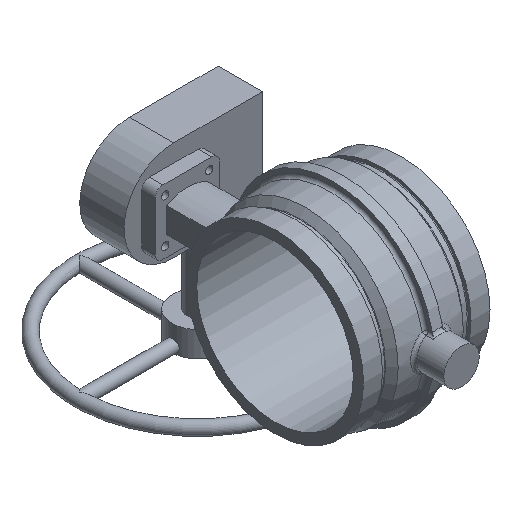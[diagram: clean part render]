
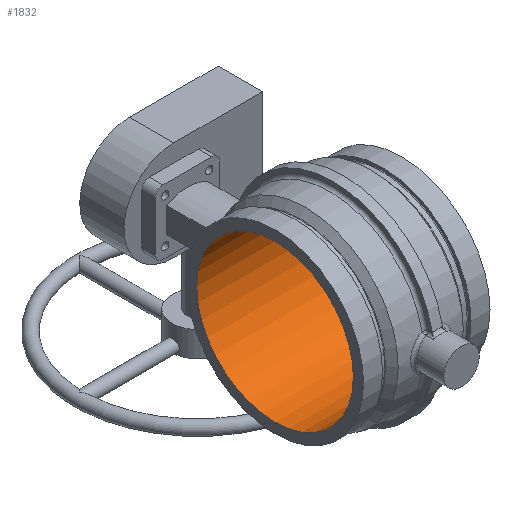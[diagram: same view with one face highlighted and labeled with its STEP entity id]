
A CAD part, isometric view. The second image highlights one B-rep face of the part: STEP entity #1832.
In plain terms, the highlighted cylindrical face has radius 157.29 mm (diameter 314.579 mm), a full revolution.
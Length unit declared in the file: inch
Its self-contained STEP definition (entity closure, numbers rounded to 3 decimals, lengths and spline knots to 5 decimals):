
#170=CIRCLE('',#2047,6.1925);
#171=CIRCLE('',#2048,6.1925);
#172=CIRCLE('',#2050,6.1925);
#173=CIRCLE('',#2051,6.1925);
#299=FACE_OUTER_BOUND('',#406,.T.);
#406=EDGE_LOOP('',(#1574,#1575,#1576,#1577,#1578,#1579));
#478=LINE('',#4075,#547);
#547=VECTOR('',#2519,6.1925);
#802=VERTEX_POINT('',#4069);
#803=VERTEX_POINT('',#4070);
#804=VERTEX_POINT('',#4074);
#805=VERTEX_POINT('',#4076);
#1064=EDGE_CURVE('',#802,#803,#170,.T.);
#1065=EDGE_CURVE('',#803,#802,#171,.T.);
#1066=EDGE_CURVE('',#803,#804,#478,.T.);
#1067=EDGE_CURVE('',#805,#804,#172,.T.);
#1068=EDGE_CURVE('',#804,#805,#173,.T.);
#1574=ORIENTED_EDGE('',*,*,#1064,.T.);
#1575=ORIENTED_EDGE('',*,*,#1066,.T.);
#1576=ORIENTED_EDGE('',*,*,#1067,.F.);
#1577=ORIENTED_EDGE('',*,*,#1068,.F.);
#1578=ORIENTED_EDGE('',*,*,#1066,.F.);
#1579=ORIENTED_EDGE('',*,*,#1065,.T.);
#1643=CYLINDRICAL_SURFACE('',#2049,6.1925);
#1832=ADVANCED_FACE('',(#299),#1643,.F.);
#2047=AXIS2_PLACEMENT_3D('',#4071,#2513,#2514);
#2048=AXIS2_PLACEMENT_3D('',#4072,#2515,#2516);
#2049=AXIS2_PLACEMENT_3D('',#4073,#2517,#2518);
#2050=AXIS2_PLACEMENT_3D('',#4077,#2520,#2521);
#2051=AXIS2_PLACEMENT_3D('',#4078,#2522,#2523);
#2513=DIRECTION('center_axis',(1.,0.,0.));
#2514=DIRECTION('ref_axis',(0.,1.,0.));
#2515=DIRECTION('center_axis',(1.,0.,0.));
#2516=DIRECTION('ref_axis',(0.,1.,0.));
#2517=DIRECTION('center_axis',(1.,0.,0.));
#2518=DIRECTION('ref_axis',(0.,1.,0.));
#2519=DIRECTION('',(-1.,0.,0.));
#2520=DIRECTION('center_axis',(1.,0.,0.));
#2521=DIRECTION('ref_axis',(0.,1.,0.));
#2522=DIRECTION('center_axis',(1.,0.,0.));
#2523=DIRECTION('ref_axis',(0.,1.,0.));
#4069=CARTESIAN_POINT('',(5.,6.1925,0.));
#4070=CARTESIAN_POINT('',(5.,-6.1925,0.));
#4071=CARTESIAN_POINT('Origin',(5.,0.,0.));
#4072=CARTESIAN_POINT('Origin',(5.,0.,0.));
#4073=CARTESIAN_POINT('Origin',(0.,0.,0.));
#4074=CARTESIAN_POINT('',(-5.,-6.1925,0.));
#4075=CARTESIAN_POINT('',(0.,-6.1925,0.));
#4076=CARTESIAN_POINT('',(-5.,6.1925,0.));
#4077=CARTESIAN_POINT('Origin',(-5.,0.,0.));
#4078=CARTESIAN_POINT('Origin',(-5.,0.,0.));
